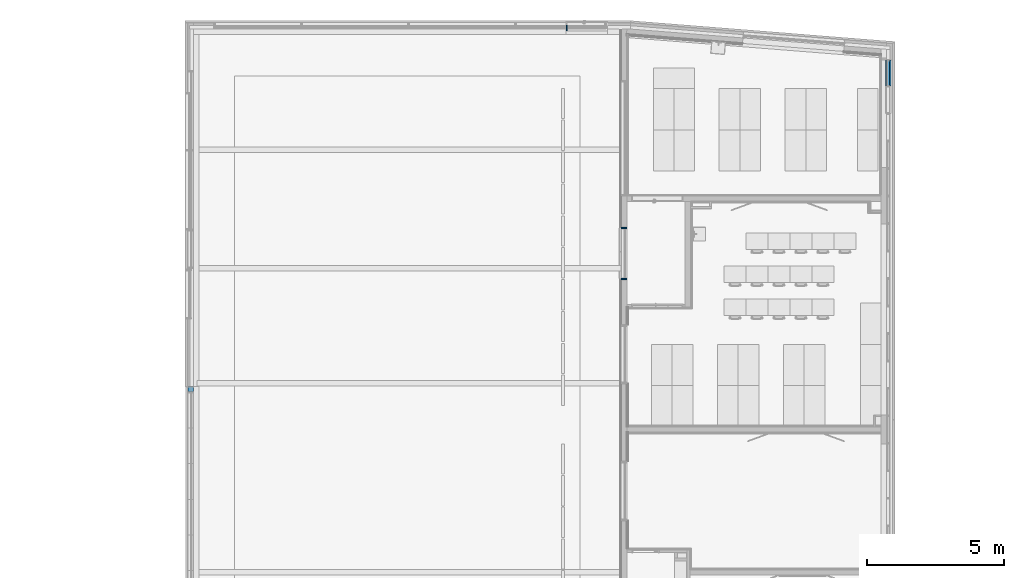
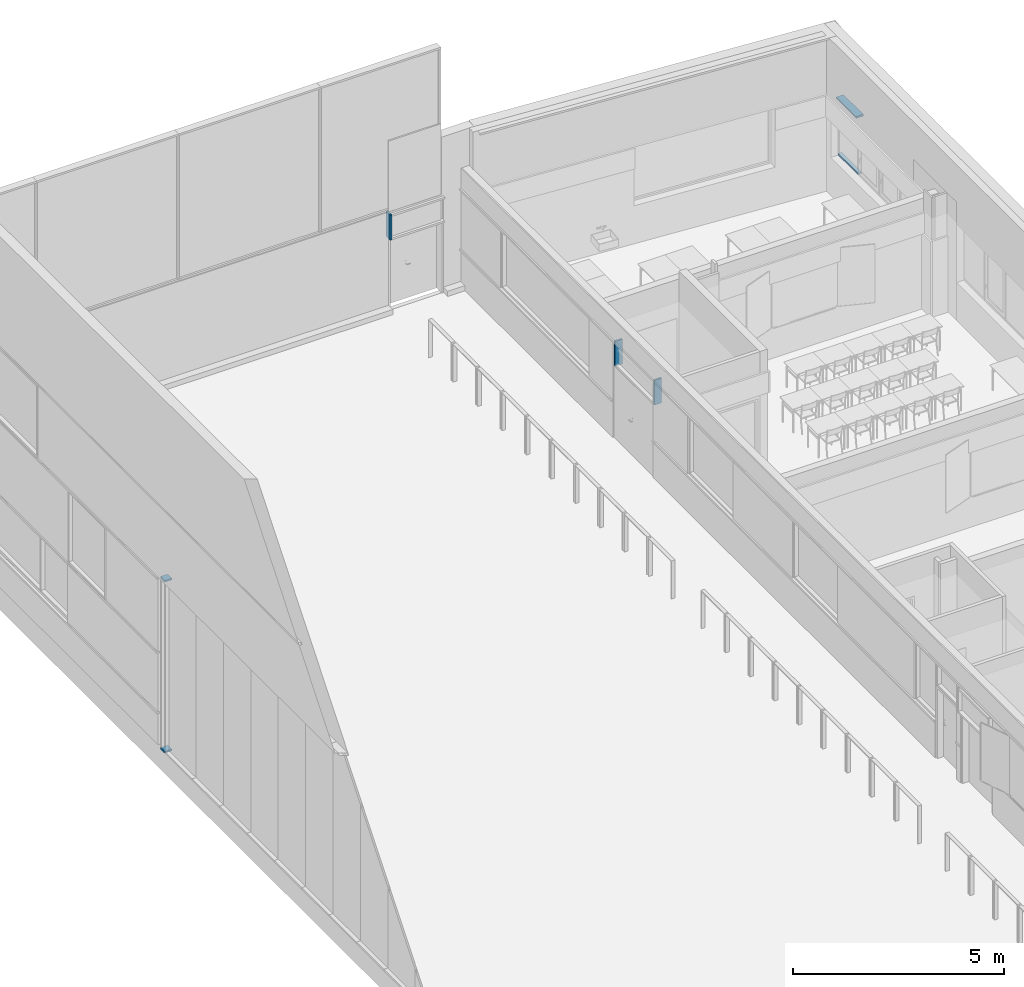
# One storey, part 26 of 137: 7 members, 4 elements without a shape of their own.
"""IFC2X3 building model written with IfcOpenShell, lengths in centimetres."""

from ifc_helpers import new_model, entity, si_unit, converted_unit, derived_unit, direction, frame, frame_2d, origin, origin_2d_with_axis, place, context, subcontext, project, spatial, rectangle, extrude, material, type_object, element, aggregate, save


model = new_model("IFC2X3")

# Units and contexts
model_context = context("Model", 3, precision=0.001, world=origin(), true_north=direction((6.12303176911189e-17, 1.0)))
body_context = subcontext(model_context, "Body", "Model", "MODEL_VIEW")
ifc_project = project(units=[si_unit("LENGTHUNIT", "METRE", prefix="CENTI"), si_unit("AREAUNIT", "SQUARE_METRE"), si_unit("VOLUMEUNIT", "CUBIC_METRE"), converted_unit("PLANEANGLEUNIT", "DEGREE", entity("IfcRatioMeasure", 0.0174532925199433), si_unit("PLANEANGLEUNIT", "RADIAN"), dimensions=[0, 0, 0, 0, 0, 0, 0]), si_unit("MASSUNIT", "GRAM", prefix="KILO"), si_unit("TIMEUNIT", "SECOND"), si_unit("FREQUENCYUNIT", "HERTZ"), si_unit("THERMODYNAMICTEMPERATUREUNIT", "DEGREE_CELSIUS"), derived_unit("THERMALTRANSMITTANCEUNIT", [(si_unit("MASSUNIT", "GRAM", prefix="KILO"), 1), (si_unit("THERMODYNAMICTEMPERATUREUNIT", "KELVIN"), -1), (si_unit("TIMEUNIT", "SECOND"), -3)]), derived_unit("VOLUMETRICFLOWRATEUNIT", [(si_unit("LENGTHUNIT", "METRE"), 3), (si_unit("TIMEUNIT", "SECOND"), -1)]), si_unit("ELECTRICCURRENTUNIT", "AMPERE"), si_unit("ELECTRICVOLTAGEUNIT", "VOLT"), si_unit("POWERUNIT", "WATT"), si_unit("FORCEUNIT", "NEWTON", prefix="KILO"), si_unit("ILLUMINANCEUNIT", "LUX"), si_unit("LUMINOUSFLUXUNIT", "LUMEN"), si_unit("LUMINOUSINTENSITYUNIT", "CANDELA"), derived_unit("USERDEFINED", [(si_unit("MASSUNIT", "GRAM", prefix="KILO"), -1), (si_unit("LENGTHUNIT", "METRE"), -2), (si_unit("TIMEUNIT", "SECOND"), 3), (si_unit("LUMINOUSFLUXUNIT", "LUMEN"), 1)]), derived_unit("LINEARVELOCITYUNIT", [(si_unit("LENGTHUNIT", "METRE"), 1), (si_unit("TIMEUNIT", "SECOND"), -1)]), si_unit("PRESSUREUNIT", "PASCAL"), derived_unit("USERDEFINED", [(si_unit("LENGTHUNIT", "METRE"), -2), (si_unit("MASSUNIT", "GRAM", prefix="KILO"), 1), (si_unit("TIMEUNIT", "SECOND"), -2)])], contexts=[model_context])

# Site, building, storey
site_placement = place(None, frame((8.62739174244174, -249.285249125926, 0.0)))
site = spatial("IfcSite", under=ifc_project, at=site_placement, Name="Default", CompositionType="ELEMENT")
building_placement = place(site_placement, origin())
building = spatial("IfcBuilding", under=site, at=building_placement, CompositionType="ELEMENT")
storey_placement = place(building_placement, origin())
storey = spatial("IfcBuildingStorey", under=building, at=storey_placement, Name="RDC", CompositionType="ELEMENT", Elevation=-8.82465566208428e-11)

# Curtain wall, members
curtain_wall_type = type_object("IfcCurtainWallType", Name="Mur-rideau:Simple panneau", PredefinedType="NOTDEFINED")
curtain_wall_1_placement = place(storey_placement, origin())
curtain_wall_1 = element("IfcCurtainWall", 1, at=curtain_wall_1_placement, inside=storey, type_object=curtain_wall_type, Name="Mur-rideau:Simple panneau", ObjectType="Mur-rideau:Simple panneau")
ifc_material = material(Name="Plastique, blanc opaque")
member_1_placement = place(curtain_wall_1_placement, origin())
member_1 = element("IfcMember", 2, at=member_1_placement, material=ifc_material, Name="Mur-rideau:Simple panneau", ObjectType="Mur-rideau:Simple panneau", context=body_context, shape_type="SweptSolid", body=[
    extrude(rectangle(XDim=5.0, YDim=20.0000000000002, at=origin_2d_with_axis()), frame((1466.9048277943, 6261.27522290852, 2.50000000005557), z_axis=(0.0, -1.0, 0.0), x_axis=(0.0, 0.0, -1.0)), (0.0, 0.0, 1.0), 19.9999999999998),
])
member_2_placement = place(curtain_wall_1_placement, origin())
member_2 = element("IfcMember", 3, at=member_2_placement, material=ifc_material, Name="Mur-rideau:Simple panneau", ObjectType="Mur-rideau:Simple panneau", context=body_context, shape_type="SweptSolid", body=[
    extrude(rectangle(XDim=4.99999999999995, YDim=20.0000000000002, at=origin_2d_with_axis()), frame((1466.9048277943, 6241.27522290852, 497.500000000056), z_axis=(0.0, 1.0, 0.0), x_axis=(0.0, 0.0, -1.0)), (0.0, 0.0, 1.0), 19.9999999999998),
])
aggregate(curtain_wall_1, [member_1, member_2])

curtain_wall_2_placement = place(storey_placement, origin())
curtain_wall_2 = element("IfcCurtainWall", 4, at=curtain_wall_2_placement, inside=storey, type_object=curtain_wall_type, Name="Mur-rideau:Simple panneau", ObjectType="Mur-rideau:Simple panneau")
member_3_placement = place(curtain_wall_2_placement, origin())
member_3 = element("IfcMember", 5, at=member_3_placement, material=ifc_material, Name="Mur-rideau:Simple panneau", ObjectType="Mur-rideau:Simple panneau", context=body_context, shape_type="SweptSolid", body=[
    extrude(rectangle(XDim=5.0, YDim=20.0000000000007, at=frame_2d((2.70894418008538e-14, 0.0), x_axis=(1.0, 0.0))), frame((4003.90482781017, 7354.9802081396, 277.500000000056), z_axis=(0.0, 1.0, 0.0), x_axis=(0.0, 0.0, -1.0)), (0.0, 0.0, 1.0), 94.4091609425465),
])
member_4_placement = place(curtain_wall_2_placement, origin())
member_4 = element("IfcMember", 6, at=member_4_placement, material=ifc_material, Name="Mur-rideau:Simple panneau", ObjectType="Mur-rideau:Simple panneau", context=body_context, shape_type="SweptSolid", body=[
    extrude(rectangle(XDim=5.0, YDim=9.99999999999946, at=origin_2d_with_axis()), frame((4003.90482781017, 7449.38936908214, 112.500000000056), z_axis=(0.0, -1.0, 0.0), x_axis=(0.0, 0.0, -1.0)), (0.0, 0.0, 1.0), 94.4091609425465),
])
aggregate(curtain_wall_2, [member_3, member_4])

curtain_wall_3_placement = place(storey_placement, origin())
curtain_wall_3 = element("IfcCurtainWall", 7, at=curtain_wall_3_placement, inside=storey, type_object=curtain_wall_type, Name="Mur-rideau:Simple panneau", ObjectType="Mur-rideau:Simple panneau")
member_5_placement = place(curtain_wall_3_placement, origin())
member_5 = element("IfcMember", 8, at=member_5_placement, material=ifc_material, Name="Mur-rideau:Simple panneau", ObjectType="Mur-rideau:Simple panneau", context=body_context, shape_type="SweptSolid", body=[
    extrude(rectangle(XDim=19.9999999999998, YDim=4.99999999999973, at=frame_2d((0.0, -4.33209024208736e-13), x_axis=(1.0, 0.0))), frame((3043.9048277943, 6838.28019846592, 280.0), z_axis=(0.0, 0.0, -1.0), x_axis=(-1.0, 0.0, 0.0)), (0.0, 0.0, 1.0), 71.9999999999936),
])
member_6_placement = place(curtain_wall_3_placement, origin())
member_6 = element("IfcMember", 9, at=member_6_placement, material=ifc_material, Name="Mur-rideau:Simple panneau", ObjectType="Mur-rideau:Simple panneau", context=body_context, shape_type="SweptSolid", body=[
    extrude(rectangle(XDim=19.9999999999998, YDim=4.99999999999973, at=frame_2d((4.33431068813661e-13, 4.33209024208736e-13), x_axis=(1.0, 0.0))), frame((3043.9048277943, 6652.28019846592, 208.0), z_axis=(0.0, 0.0, 1.0), x_axis=(-1.0, 0.0, 0.0)), (0.0, 0.0, 1.0), 71.9999999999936),
])
aggregate(curtain_wall_3, [member_5, member_6])

# Curtain wall, member
curtain_wall_4_placement = place(storey_placement, origin())
curtain_wall_4 = element("IfcCurtainWall", 10, at=curtain_wall_4_placement, inside=storey, type_object=curtain_wall_type, Name="Mur-rideau:Simple panneau", ObjectType="Mur-rideau:Simple panneau")
member_7_placement = place(curtain_wall_4_placement, origin())
member_7 = element("IfcMember", 11, at=member_7_placement, material=ifc_material, Name="Mur-rideau:Simple panneau", ObjectType="Mur-rideau:Simple panneau", context=body_context, shape_type="SweptSolid", body=[
    extrude(rectangle(XDim=5.00000000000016, YDim=20.0000000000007, at=frame_2d((2.16715534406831e-13, 0.0), x_axis=(1.0, 0.0))), frame((2835.40482780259, 7564.976551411, 280.0), z_axis=(0.0, 0.0, -1.0), x_axis=(-1.0, 0.0, 0.0)), (0.0, 0.0, 1.0), 73.0000000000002),
])
aggregate(curtain_wall_4, [member_7])

save(model, "model.ifc")
